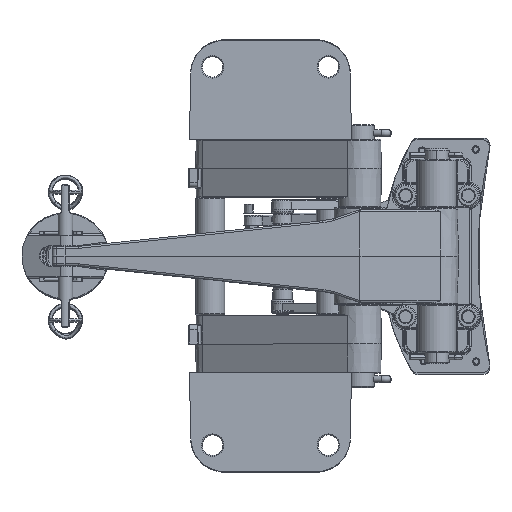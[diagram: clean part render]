
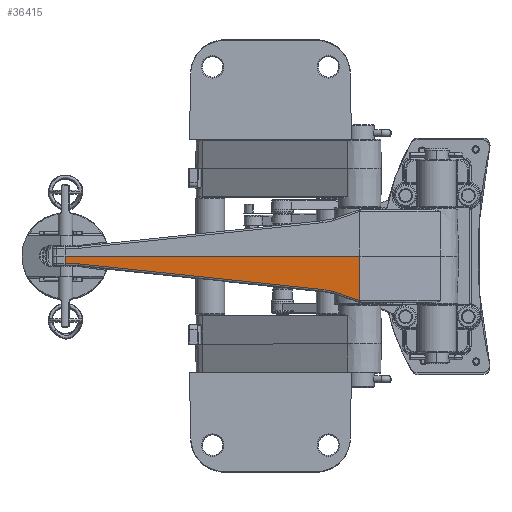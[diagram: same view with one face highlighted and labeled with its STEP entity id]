
A CAD part, top view. The second image highlights one B-rep face of the part: STEP entity #36415.
In plain terms, the highlighted planar face has unit normal (-0.04, -0.018, 0.999).
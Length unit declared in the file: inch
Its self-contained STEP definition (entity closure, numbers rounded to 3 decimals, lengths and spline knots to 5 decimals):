
#2346 = EDGE_CURVE ( 'NONE', #61854, #88276, #110979, .T. ) ;
#2773 = DIRECTION ( 'NONE',  ( 0.944, -0.328, 0.032 ) ) ;
#5600 = CARTESIAN_POINT ( 'NONE',  ( -1.51704, -0.86635, 3.21116 ) ) ;
#12097 = CARTESIAN_POINT ( 'NONE',  ( -0.55727, -1.15224, 3.24479 ) ) ;
#12337 = VECTOR ( 'NONE', #29152, 39.37008 ) ;
#12959 = VERTEX_POINT ( 'NONE', #19259 ) ;
#13781 = VERTEX_POINT ( 'NONE', #98037 ) ;
#18219 = LINE ( 'NONE', #50392, #44139 ) ;
#19259 = CARTESIAN_POINT ( 'NONE',  ( -0.55594, 0., 3.26498 ) ) ;
#19789 = VERTEX_POINT ( 'NONE', #5600 ) ;
#23166 = CARTESIAN_POINT ( 'NONE',  ( -0.55709, -1.15005, 3.24484 ) ) ;
#27032 = CARTESIAN_POINT ( 'NONE',  ( -0.94921, -1.01732, 3.23138 ) ) ;
#29150 = ORIENTED_EDGE ( 'NONE', *, *, #39686, .F. ) ;
#29152 = DIRECTION ( 'NONE',  ( -0.001, -1., -0.018 ) ) ;
#29763 = CARTESIAN_POINT ( 'NONE',  ( -1.23336, -0.91869, 3.22166 ) ) ;
#31745 = LINE ( 'NONE', #82324, #119918 ) ;
#34831 =( BOUNDED_CURVE ( )  B_SPLINE_CURVE ( 3, ( #122192, #12097, #89438, #23166 ),
 .UNSPECIFIED., .F., .F. ) 
 B_SPLINE_CURVE_WITH_KNOTS ( ( 4, 4 ),
 ( 3.14214, 3.20588 ),
 .UNSPECIFIED. ) 
 CURVE ( )  GEOMETRIC_REPRESENTATION_ITEM ( )  RATIONAL_B_SPLINE_CURVE ( ( 1., 1., 1., 1. ) ) 
 REPRESENTATION_ITEM ( '' )  );
#35260 = DIRECTION ( 'NONE',  ( -0.04, -0.017, 0.999 ) ) ;
#36415 = ADVANCED_FACE ( 'NONE', ( #73129 ), #123189, .T. ) ;
#39062 = LINE ( 'NONE', #113118, #123705 ) ;
#39686 = EDGE_CURVE ( 'NONE', #74656, #12959, #59575, .T. ) ;
#41690 = LINE ( 'NONE', #124372, #12337 ) ;
#44139 = VECTOR ( 'NONE', #72617, 39.37008 ) ;
#50392 = CARTESIAN_POINT ( 'NONE',  ( -0.59705, -0.20087, 3.25981 ) ) ;
#55260 = ORIENTED_EDGE ( 'NONE', *, *, #69312, .T. ) ;
#59575 = LINE ( 'NONE', #120701, #140774 ) ;
#61817 = VERTEX_POINT ( 'NONE', #117704 ) ;
#61854 = VERTEX_POINT ( 'NONE', #29763 ) ;
#65043 = CARTESIAN_POINT ( 'NONE',  ( -0.78117, -1.00213, 3.2384 ) ) ;
#69312 = EDGE_CURVE ( 'NONE', #74656, #13781, #31745, .T. ) ;
#72425 = ORIENTED_EDGE ( 'NONE', *, *, #2346, .T. ) ;
#72617 = DIRECTION ( 'NONE',  ( 0.999, 0., 0.04 ) ) ;
#73129 = FACE_OUTER_BOUND ( 'NONE', #73771, .T. ) ;
#73771 = EDGE_LOOP ( 'NONE', ( #55260, #107874, #123081, #117437, #72425, #106266, #133631, #29150 ) ) ;
#74656 = VERTEX_POINT ( 'NONE', #87738 ) ;
#74778 = AXIS2_PLACEMENT_3D ( 'NONE', #101501, #35260, #112575 ) ;
#82324 = CARTESIAN_POINT ( 'NONE',  ( -8.19797, -0.00318, 2.95736 ) ) ;
#84155 = LINE ( 'NONE', #65043, #113409 ) ;
#86842 = EDGE_CURVE ( 'NONE', #88276, #61817, #34831, .T. ) ;
#87738 = CARTESIAN_POINT ( 'NONE',  ( -8.19797, 0., 2.95742 ) ) ;
#87864 = DIRECTION ( 'NONE',  ( 0.983, -0.181, 0.036 ) ) ;
#88276 = VERTEX_POINT ( 'NONE', #99590 ) ;
#89438 = CARTESIAN_POINT ( 'NONE',  ( -0.5571, -1.15118, 3.24482 ) ) ;
#93253 = EDGE_CURVE ( 'NONE', #12959, #61817, #41690, .T. ) ;
#93372 = DIRECTION ( 'NONE',  ( 0., -1., -0.017 ) ) ;
#96252 = EDGE_CURVE ( 'NONE', #132282, #19789, #39062, .T. ) ;
#98037 = CARTESIAN_POINT ( 'NONE',  ( -8.19791, -0.20087, 2.95391 ) ) ;
#98318 = CARTESIAN_POINT ( 'NONE',  ( -7.85065, -0.20087, 2.96789 ) ) ;
#99027 = DIRECTION ( 'NONE',  ( 0.999, 0., 0.04 ) ) ;
#99590 = CARTESIAN_POINT ( 'NONE',  ( -0.55762, -1.15324, 3.24476 ) ) ;
#101501 = CARTESIAN_POINT ( 'NONE',  ( -0.59719, 0., 3.26332 ) ) ;
#106266 = ORIENTED_EDGE ( 'NONE', *, *, #86842, .T. ) ;
#107874 = ORIENTED_EDGE ( 'NONE', *, *, #110541, .T. ) ;
#110541 = EDGE_CURVE ( 'NONE', #13781, #132282, #18219, .T. ) ;
#110979 = LINE ( 'NONE', #27032, #140296 ) ;
#112575 = DIRECTION ( 'NONE',  ( 0.999, 0., 0.04 ) ) ;
#113118 = CARTESIAN_POINT ( 'NONE',  ( -0.69648, -0.95257, 3.24268 ) ) ;
#113409 = VECTOR ( 'NONE', #87864, 39.37008 ) ;
#117437 = ORIENTED_EDGE ( 'NONE', *, *, #133415, .T. ) ;
#117704 = CARTESIAN_POINT ( 'NONE',  ( -0.55709, -1.15005, 3.24484 ) ) ;
#119918 = VECTOR ( 'NONE', #93372, 39.37008 ) ;
#120701 = CARTESIAN_POINT ( 'NONE',  ( -0.59719, 0., 3.26332 ) ) ;
#122192 = CARTESIAN_POINT ( 'NONE',  ( -0.55762, -1.15324, 3.24476 ) ) ;
#123081 = ORIENTED_EDGE ( 'NONE', *, *, #96252, .T. ) ;
#123189 = PLANE ( 'NONE',  #74778 ) ;
#123705 = VECTOR ( 'NONE', #124179, 39.37008 ) ;
#124179 = DIRECTION ( 'NONE',  ( 0.994, -0.104, 0.038 ) ) ;
#124372 = CARTESIAN_POINT ( 'NONE',  ( -0.55594, -0.00022, 3.26497 ) ) ;
#132282 = VERTEX_POINT ( 'NONE', #98318 ) ;
#133415 = EDGE_CURVE ( 'NONE', #19789, #61854, #84155, .T. ) ;
#133631 = ORIENTED_EDGE ( 'NONE', *, *, #93253, .F. ) ;
#140296 = VECTOR ( 'NONE', #2773, 39.37008 ) ;
#140774 = VECTOR ( 'NONE', #99027, 39.37008 ) ;
